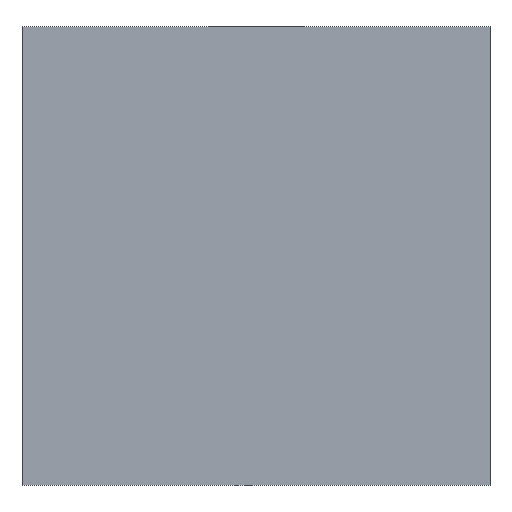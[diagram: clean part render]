
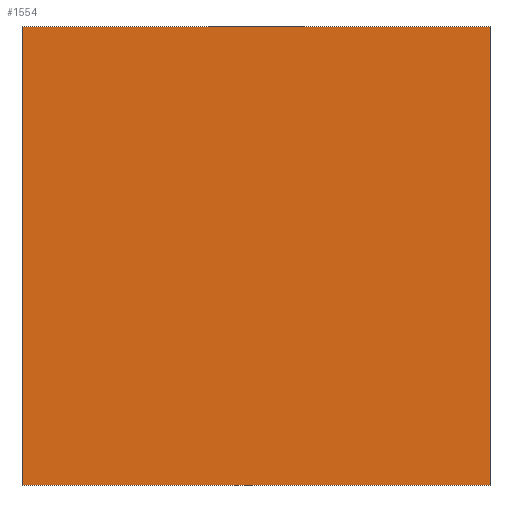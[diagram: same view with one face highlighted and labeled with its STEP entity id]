
A CAD part, front view. The second image highlights one B-rep face of the part: STEP entity #1554.
In plain terms, the highlighted planar face has unit normal (0, -1, 0).
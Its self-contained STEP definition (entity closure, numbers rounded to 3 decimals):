
#122=PLANE('',#1711);
#201=FACE_OUTER_BOUND('',#312,.T.);
#312=EDGE_LOOP('',(#1208,#1209,#1210,#1211));
#422=LINE('',#2422,#577);
#423=LINE('',#2424,#578);
#424=LINE('',#2426,#579);
#425=LINE('',#2427,#580);
#577=VECTOR('',#1974,10.);
#578=VECTOR('',#1975,10.);
#579=VECTOR('',#1976,10.);
#580=VECTOR('',#1977,10.);
#784=VERTEX_POINT('',#2420);
#785=VERTEX_POINT('',#2421);
#786=VERTEX_POINT('',#2423);
#787=VERTEX_POINT('',#2425);
#941=EDGE_CURVE('',#784,#785,#422,.T.);
#942=EDGE_CURVE('',#785,#786,#423,.T.);
#943=EDGE_CURVE('',#786,#787,#424,.T.);
#944=EDGE_CURVE('',#787,#784,#425,.T.);
#1208=ORIENTED_EDGE('',*,*,#941,.T.);
#1209=ORIENTED_EDGE('',*,*,#942,.T.);
#1210=ORIENTED_EDGE('',*,*,#943,.T.);
#1211=ORIENTED_EDGE('',*,*,#944,.T.);
#1554=ADVANCED_FACE('',(#201),#122,.T.);
#1711=AXIS2_PLACEMENT_3D('',#2419,#1972,#1973);
#1972=DIRECTION('center_axis',(0.,-1.,0.));
#1973=DIRECTION('ref_axis',(0.,0.,-1.));
#1974=DIRECTION('',(-1.,0.,0.));
#1975=DIRECTION('',(0.,0.,-1.));
#1976=DIRECTION('',(1.,0.,0.));
#1977=DIRECTION('',(0.,0.,1.));
#2419=CARTESIAN_POINT('Origin',(775.,-1460.,0.));
#2420=CARTESIAN_POINT('',(1275.,-1460.,0.));
#2421=CARTESIAN_POINT('',(-1275.,-1460.,0.));
#2422=CARTESIAN_POINT('',(775.,-1460.,0.));
#2423=CARTESIAN_POINT('',(-1275.,-1460.,-2500.));
#2424=CARTESIAN_POINT('',(-1275.,-1460.,0.));
#2425=CARTESIAN_POINT('',(1275.,-1460.,-2500.));
#2426=CARTESIAN_POINT('',(-775.,-1460.,-2500.));
#2427=CARTESIAN_POINT('',(1275.,-1460.,0.));
